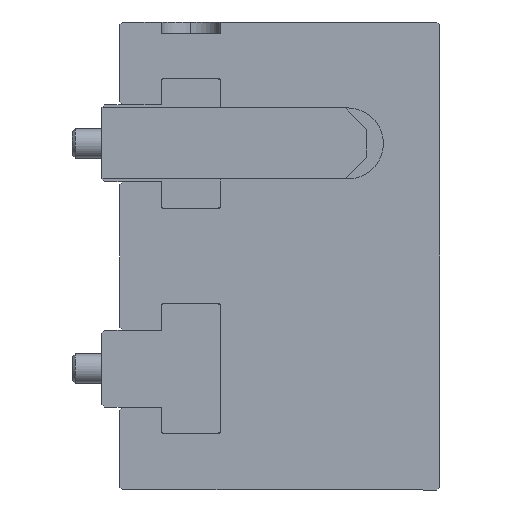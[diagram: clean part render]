
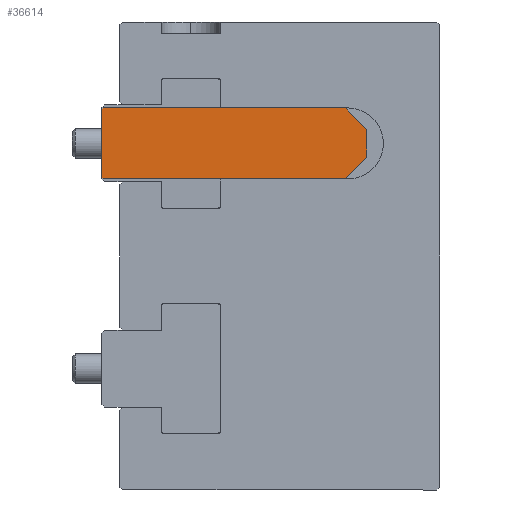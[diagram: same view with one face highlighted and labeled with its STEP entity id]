
A CAD part, left-side view. The second image highlights one B-rep face of the part: STEP entity #36614.
In plain terms, the highlighted planar face has unit normal (-1, 0, 0).
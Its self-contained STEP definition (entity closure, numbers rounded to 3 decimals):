
#307 = ORIENTED_EDGE ( 'NONE', *, *, #20298, .T. ) ;
#898 = CARTESIAN_POINT ( 'NONE',  ( -88., -24.73, 2.3 ) ) ;
#1345 = VECTOR ( 'NONE', #17231, 1000. ) ;
#1963 = ORIENTED_EDGE ( 'NONE', *, *, #18416, .T. ) ;
#3704 = LINE ( 'NONE', #40697, #32513 ) ;
#4835 = ORIENTED_EDGE ( 'NONE', *, *, #27030, .T. ) ;
#5623 = CARTESIAN_POINT ( 'NONE',  ( -88., 19.999, 5.771 ) ) ;
#5959 = LINE ( 'NONE', #32503, #15592 ) ;
#6336 = VERTEX_POINT ( 'NONE', #31503 ) ;
#6980 = DIRECTION ( 'NONE',  ( -1., 0., 0. ) ) ;
#7435 = VECTOR ( 'NONE', #30092, 1000. ) ;
#9005 = CARTESIAN_POINT ( 'NONE',  ( -88., -21.03, -6. ) ) ;
#10151 = PLANE ( 'NONE',  #38024 ) ;
#10507 = ORIENTED_EDGE ( 'NONE', *, *, #35290, .T. ) ;
#12169 = VERTEX_POINT ( 'NONE', #5623 ) ;
#15592 = VECTOR ( 'NONE', #46717, 1000. ) ;
#16275 = DIRECTION ( 'NONE',  ( 0., -0.707, 0.707 ) ) ;
#16283 = DIRECTION ( 'NONE',  ( 0., 0.707, 0.707 ) ) ;
#16818 = VERTEX_POINT ( 'NONE', #31566 ) ;
#17184 = LINE ( 'NONE', #42145, #1345 ) ;
#17231 = DIRECTION ( 'NONE',  ( 0., -0.707, -0.707 ) ) ;
#18416 = EDGE_CURVE ( 'NONE', #6336, #29403, #24139, .T. ) ;
#19126 = DIRECTION ( 'NONE',  ( 0., 0., 1. ) ) ;
#19260 = VERTEX_POINT ( 'NONE', #44415 ) ;
#19309 = CARTESIAN_POINT ( 'NONE',  ( -88., -24.73, 2.3 ) ) ;
#19851 = EDGE_CURVE ( 'NONE', #29403, #33843, #28013, .T. ) ;
#20298 = EDGE_CURVE ( 'NONE', #12169, #16818, #5959, .T. ) ;
#20408 = VECTOR ( 'NONE', #22905, 1000. ) ;
#20465 = EDGE_CURVE ( 'NONE', #33843, #35553, #3704, .T. ) ;
#20662 = ORIENTED_EDGE ( 'NONE', *, *, #26070, .T. ) ;
#21000 = VERTEX_POINT ( 'NONE', #26412 ) ;
#21935 = VECTOR ( 'NONE', #16283, 1000. ) ;
#22905 = DIRECTION ( 'NONE',  ( 0., 1., 0. ) ) ;
#23474 = ORIENTED_EDGE ( 'NONE', *, *, #40703, .T. ) ;
#24139 = LINE ( 'NONE', #26204, #44480 ) ;
#26070 = EDGE_CURVE ( 'NONE', #21000, #12169, #37373, .T. ) ;
#26204 = CARTESIAN_POINT ( 'NONE',  ( -88., 19.77, -6. ) ) ;
#26412 = CARTESIAN_POINT ( 'NONE',  ( -88., 19.77, 6. ) ) ;
#26442 = CARTESIAN_POINT ( 'NONE',  ( -88., -24.73, -2.3 ) ) ;
#26452 = CARTESIAN_POINT ( 'NONE',  ( -88., 19.999, 5.771 ) ) ;
#27030 = EDGE_CURVE ( 'NONE', #19260, #21000, #27702, .T. ) ;
#27702 = LINE ( 'NONE', #41023, #20408 ) ;
#28013 = LINE ( 'NONE', #9005, #46091 ) ;
#28569 = CARTESIAN_POINT ( 'NONE',  ( -88., 25.77, 0. ) ) ;
#29403 = VERTEX_POINT ( 'NONE', #44907 ) ;
#30092 = DIRECTION ( 'NONE',  ( 0., 0.707, -0.707 ) ) ;
#30187 = ORIENTED_EDGE ( 'NONE', *, *, #20465, .T. ) ;
#30314 = FACE_OUTER_BOUND ( 'NONE', #30381, .T. ) ;
#30381 = EDGE_LOOP ( 'NONE', ( #10507, #4835, #20662, #307, #23474, #1963, #37007, #30187 ) ) ;
#31503 = CARTESIAN_POINT ( 'NONE',  ( -88., 19.77, -6. ) ) ;
#31566 = CARTESIAN_POINT ( 'NONE',  ( -88., 19.999, -5.771 ) ) ;
#32225 = DIRECTION ( 'NONE',  ( 0., 0., 1. ) ) ;
#32503 = CARTESIAN_POINT ( 'NONE',  ( -88., 19.999, 5.771 ) ) ;
#32513 = VECTOR ( 'NONE', #19126, 1000. ) ;
#33495 = DIRECTION ( 'NONE',  ( 0., -1., 0. ) ) ;
#33843 = VERTEX_POINT ( 'NONE', #26442 ) ;
#35290 = EDGE_CURVE ( 'NONE', #35553, #19260, #42237, .T. ) ;
#35553 = VERTEX_POINT ( 'NONE', #898 ) ;
#36614 = ADVANCED_FACE ( 'NONE', ( #30314 ), #10151, .T. ) ;
#37007 = ORIENTED_EDGE ( 'NONE', *, *, #19851, .T. ) ;
#37373 = LINE ( 'NONE', #26452, #7435 ) ;
#38024 = AXIS2_PLACEMENT_3D ( 'NONE', #28569, #6980, #32225 ) ;
#40697 = CARTESIAN_POINT ( 'NONE',  ( -88., -24.73, 2.3 ) ) ;
#40703 = EDGE_CURVE ( 'NONE', #16818, #6336, #17184, .T. ) ;
#41023 = CARTESIAN_POINT ( 'NONE',  ( -88., 19.77, 6. ) ) ;
#42145 = CARTESIAN_POINT ( 'NONE',  ( -88., 19.999, -5.771 ) ) ;
#42237 = LINE ( 'NONE', #19309, #21935 ) ;
#44415 = CARTESIAN_POINT ( 'NONE',  ( -88., -21.03, 6. ) ) ;
#44480 = VECTOR ( 'NONE', #33495, 1000. ) ;
#44907 = CARTESIAN_POINT ( 'NONE',  ( -88., -21.03, -6. ) ) ;
#46091 = VECTOR ( 'NONE', #16275, 1000. ) ;
#46717 = DIRECTION ( 'NONE',  ( 0., 0., -1. ) ) ;
